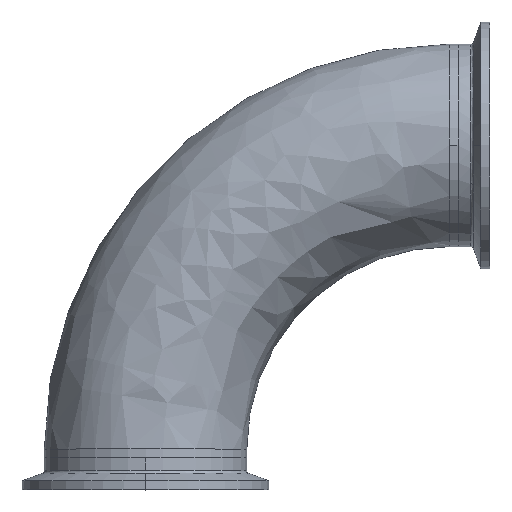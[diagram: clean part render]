
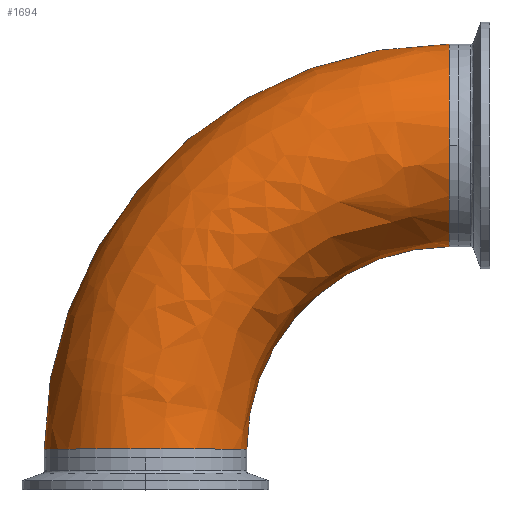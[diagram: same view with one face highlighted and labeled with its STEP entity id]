
A CAD part, top view. The second image highlights one B-rep face of the part: STEP entity #1694.
In plain terms, the highlighted free-form (B-spline) face has degree [3, 3] with [4, 4] control points.
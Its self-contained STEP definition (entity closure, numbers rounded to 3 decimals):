
#37 = DIRECTION ( 'NONE',  ( 0., 1., 0. ) ) ;
#95 = CARTESIAN_POINT ( 'NONE',  ( -31.75, 77.145, 0. ) ) ;
#108 = CARTESIAN_POINT ( 'NONE',  ( 58.053, 66.25, 0. ) ) ;
#147 = ORIENTED_EDGE ( 'NONE', *, *, #1873, .T. ) ;
#150 = CARTESIAN_POINT ( 'NONE',  ( 0., 2.75, 0. ) ) ;
#160 = CIRCLE ( 'NONE', #1821, 127. ) ;
#233 = CARTESIAN_POINT ( 'NONE',  ( -31.75, 2.75, 0. ) ) ;
#256 = CARTESIAN_POINT ( 'NONE',  ( 95.25, 2.75, 0. ) ) ;
#277 = ORIENTED_EDGE ( 'NONE', *, *, #510, .T. ) ;
#278 = CARTESIAN_POINT ( 'NONE',  ( 31.75, 2.75, 0. ) ) ;
#367 = CARTESIAN_POINT ( 'NONE',  ( 95.25, 129.75, 0. ) ) ;
#389 = EDGE_CURVE ( 'NONE', #438, #3248, #1200, .T. ) ;
#438 = VERTEX_POINT ( 'NONE', #2616 ) ;
#481 =( BOUNDED_SURFACE ( )  B_SPLINE_SURFACE ( 3, 3, ( 
 ( #3077, #95, #2018, #367 ),
 ( #2275, #628, #2568, #896 ),
 ( #2838, #1172, #3089, #1448 ),
 ( #3341, #1739, #108, #2029 ) ),
 .UNSPECIFIED., .F., .F., .F. ) 
 B_SPLINE_SURFACE_WITH_KNOTS ( ( 4, 4 ),
 ( 4, 4 ),
 ( 0., 1. ),
 ( 0., 1. ),
 .UNSPECIFIED. ) 
 GEOMETRIC_REPRESENTATION_ITEM ( )  RATIONAL_B_SPLINE_SURFACE ( (
 ( 1., 0.805, 0.805, 1.),
 ( 0.333, 0.268, 0.268, 0.333),
 ( 0.333, 0.268, 0.268, 0.333),
 ( 1., 0.805, 0.805, 1.) ) ) 
 REPRESENTATION_ITEM ( '' )  SURFACE ( )  );
#510 = EDGE_CURVE ( 'NONE', #2030, #1156, #867, .T. ) ;
#526 = DIRECTION ( 'NONE',  ( -1., 0., 0. ) ) ;
#529 = ORIENTED_EDGE ( 'NONE', *, *, #389, .T. ) ;
#606 = VERTEX_POINT ( 'NONE', #3345 ) ;
#628 = CARTESIAN_POINT ( 'NONE',  ( -31.75, 77.145, 63.5 ) ) ;
#867 = CIRCLE ( 'NONE', #1577, 31.75 ) ;
#896 = CARTESIAN_POINT ( 'NONE',  ( 95.25, 129.75, 63.5 ) ) ;
#902 = CARTESIAN_POINT ( 'NONE',  ( 95.25, 2.75, 0. ) ) ;
#1077 = ORIENTED_EDGE ( 'NONE', *, *, #2287, .F. ) ;
#1156 = VERTEX_POINT ( 'NONE', #278 ) ;
#1172 = CARTESIAN_POINT ( 'NONE',  ( 31.75, 39.947, 63.5 ) ) ;
#1175 = DIRECTION ( 'NONE',  ( -1., 0., 0. ) ) ;
#1200 = CIRCLE ( 'NONE', #1274, 31.75 ) ;
#1262 = CARTESIAN_POINT ( 'NONE',  ( 95.25, 98., 0. ) ) ;
#1274 = AXIS2_PLACEMENT_3D ( 'NONE', #1262, #1275, #1414 ) ;
#1275 = DIRECTION ( 'NONE',  ( -1., 0., 0. ) ) ;
#1414 = DIRECTION ( 'NONE',  ( 0., 1., 0. ) ) ;
#1448 = CARTESIAN_POINT ( 'NONE',  ( 95.25, 66.25, 63.5 ) ) ;
#1496 = AXIS2_PLACEMENT_3D ( 'NONE', #3272, #1664, #37 ) ;
#1577 = AXIS2_PLACEMENT_3D ( 'NONE', #150, #2074, #1998 ) ;
#1664 = DIRECTION ( 'NONE',  ( -1., 0., 0. ) ) ;
#1694 = ADVANCED_FACE ( 'NONE', ( #1839 ), #481, .T. ) ;
#1739 = CARTESIAN_POINT ( 'NONE',  ( 31.75, 39.947, 0. ) ) ;
#1821 = AXIS2_PLACEMENT_3D ( 'NONE', #256, #2171, #526 ) ;
#1839 = FACE_OUTER_BOUND ( 'NONE', #2003, .T. ) ;
#1873 = EDGE_CURVE ( 'NONE', #606, #438, #2516, .T. ) ;
#1998 = DIRECTION ( 'NONE',  ( -1., 0., 0. ) ) ;
#2003 = EDGE_LOOP ( 'NONE', ( #277, #2557, #147, #529, #1077 ) ) ;
#2018 = CARTESIAN_POINT ( 'NONE',  ( 20.855, 129.75, 0. ) ) ;
#2029 = CARTESIAN_POINT ( 'NONE',  ( 95.25, 66.25, 0. ) ) ;
#2030 = VERTEX_POINT ( 'NONE', #233 ) ;
#2074 = DIRECTION ( 'NONE',  ( 0., 1., 0. ) ) ;
#2104 = CARTESIAN_POINT ( 'NONE',  ( 95.25, 129.75, 0. ) ) ;
#2171 = DIRECTION ( 'NONE',  ( 0., 0., -1. ) ) ;
#2275 = CARTESIAN_POINT ( 'NONE',  ( -31.75, 2.75, 63.5 ) ) ;
#2287 = EDGE_CURVE ( 'NONE', #2030, #3248, #160, .T. ) ;
#2464 = AXIS2_PLACEMENT_3D ( 'NONE', #902, #2845, #1175 ) ;
#2516 = CIRCLE ( 'NONE', #1496, 31.75 ) ;
#2557 = ORIENTED_EDGE ( 'NONE', *, *, #2733, .T. ) ;
#2560 = CIRCLE ( 'NONE', #2464, 63.5 ) ;
#2568 = CARTESIAN_POINT ( 'NONE',  ( 20.855, 129.75, 63.5 ) ) ;
#2616 = CARTESIAN_POINT ( 'NONE',  ( 95.25, 98., 31.75 ) ) ;
#2733 = EDGE_CURVE ( 'NONE', #1156, #606, #2560, .T. ) ;
#2838 = CARTESIAN_POINT ( 'NONE',  ( 31.75, 2.75, 63.5 ) ) ;
#2845 = DIRECTION ( 'NONE',  ( 0., 0., -1. ) ) ;
#3077 = CARTESIAN_POINT ( 'NONE',  ( -31.75, 2.75, 0. ) ) ;
#3089 = CARTESIAN_POINT ( 'NONE',  ( 58.053, 66.25, 63.5 ) ) ;
#3248 = VERTEX_POINT ( 'NONE', #2104 ) ;
#3272 = CARTESIAN_POINT ( 'NONE',  ( 95.25, 98., 0. ) ) ;
#3341 = CARTESIAN_POINT ( 'NONE',  ( 31.75, 2.75, 0. ) ) ;
#3345 = CARTESIAN_POINT ( 'NONE',  ( 95.25, 66.25, 0. ) ) ;
